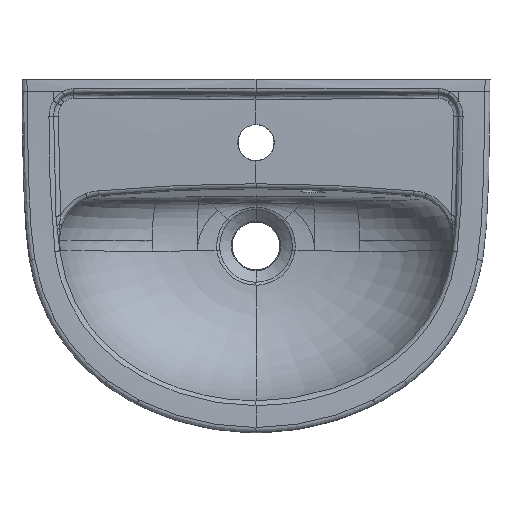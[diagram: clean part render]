
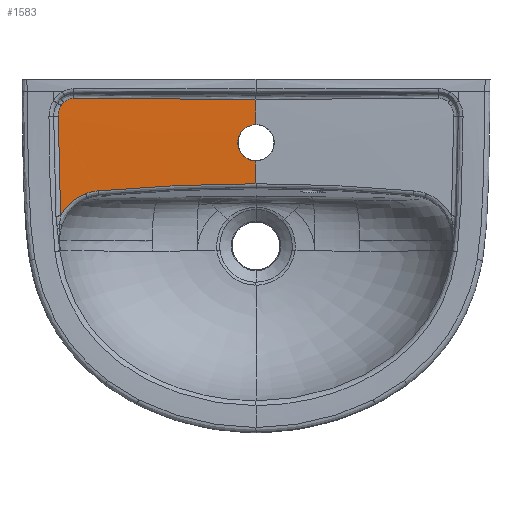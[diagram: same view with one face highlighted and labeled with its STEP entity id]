
A CAD part, top view. The second image highlights one B-rep face of the part: STEP entity #1583.
In plain terms, the highlighted free-form (B-spline) face has degree [3, 3] with [5, 5] control points.
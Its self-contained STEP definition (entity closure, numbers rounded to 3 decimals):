
#495=B_SPLINE_SURFACE_WITH_KNOTS('',3,3,((#96144,#96145,#96146,#96147,#96148),
(#96149,#96150,#96151,#96152,#96153),(#96154,#96155,#96156,#96157,#96158),
(#96159,#96160,#96161,#96162,#96163),(#96164,#96165,#96166,#96167,#96168)),
 .UNSPECIFIED.,.F.,.F.,.F.,(4,1,4),(4,1,4),(0.,0.301,1.),(0.,
0.5,1.),.UNSPECIFIED.);
#1583=ADVANCED_FACE('',(#2299),#495,.F.);
#2299=FACE_OUTER_BOUND('',#3026,.T.);
#3026=EDGE_LOOP('',(#6390,#6391,#6392,#6393,#6394,#6395,#6396,#6397,#6398,
#6399,#6400));
#6390=ORIENTED_EDGE('',*,*,#9441,.F.);
#6391=ORIENTED_EDGE('',*,*,#9405,.F.);
#6392=ORIENTED_EDGE('',*,*,#9152,.T.);
#6393=ORIENTED_EDGE('',*,*,#9158,.T.);
#6394=ORIENTED_EDGE('',*,*,#9164,.T.);
#6395=ORIENTED_EDGE('',*,*,#9170,.T.);
#6396=ORIENTED_EDGE('',*,*,#9176,.T.);
#6397=ORIENTED_EDGE('',*,*,#9204,.T.);
#6398=ORIENTED_EDGE('',*,*,#9208,.T.);
#6399=ORIENTED_EDGE('',*,*,#9211,.T.);
#6400=ORIENTED_EDGE('',*,*,#9404,.F.);
#7629=VERTEX_POINT('',#56315);
#7635=VERTEX_POINT('',#56390);
#7639=VERTEX_POINT('',#56439);
#7643=VERTEX_POINT('',#56511);
#7647=VERTEX_POINT('',#56576);
#7651=VERTEX_POINT('',#56627);
#7669=VERTEX_POINT('',#57040);
#7672=VERTEX_POINT('',#57111);
#7674=VERTEX_POINT('',#57152);
#7780=VERTEX_POINT('',#87642);
#7781=VERTEX_POINT('',#87643);
#9152=EDGE_CURVE('',#7629,#7635,#10611,.T.);
#9158=EDGE_CURVE('',#7635,#7639,#10616,.T.);
#9164=EDGE_CURVE('',#7639,#7643,#10622,.T.);
#9170=EDGE_CURVE('',#7643,#7647,#10627,.T.);
#9176=EDGE_CURVE('',#7647,#7651,#10632,.T.);
#9204=EDGE_CURVE('',#7651,#7669,#10658,.T.);
#9208=EDGE_CURVE('',#7669,#7672,#10662,.T.);
#9211=EDGE_CURVE('',#7672,#7674,#10664,.T.);
#9404=EDGE_CURVE('',#7780,#7674,#10844,.T.);
#9405=EDGE_CURVE('',#7629,#7781,#10845,.T.);
#9441=EDGE_CURVE('',#7781,#7780,#10879,.T.);
#10611=B_SPLINE_CURVE_WITH_KNOTS('',3,(#56391,#56392,#56393,#56394),
 .UNSPECIFIED.,.F.,.F.,(4,4),(0.,1.),.UNSPECIFIED.);
#10616=B_SPLINE_CURVE_WITH_KNOTS('',3,(#56440,#56441,#56442,#56443),
 .UNSPECIFIED.,.F.,.F.,(4,4),(0.,1.),.UNSPECIFIED.);
#10622=B_SPLINE_CURVE_WITH_KNOTS('',3,(#56512,#56513,#56514,#56515),
 .UNSPECIFIED.,.F.,.F.,(4,4),(0.,1.),.UNSPECIFIED.);
#10627=B_SPLINE_CURVE_WITH_KNOTS('',3,(#56577,#56578,#56579,#56580),
 .UNSPECIFIED.,.F.,.F.,(4,4),(0.,1.),.UNSPECIFIED.);
#10632=B_SPLINE_CURVE_WITH_KNOTS('',3,(#56628,#56629,#56630,#56631,#56632,
#56633),.UNSPECIFIED.,.F.,.F.,(4,2,4),(0.,0.5,1.),.UNSPECIFIED.);
#10658=B_SPLINE_CURVE_WITH_KNOTS('',3,(#57030,#57031,#57032,#57033,#57034,
#57035,#57036,#57037,#57038,#57039),.UNSPECIFIED.,.F.,.F.,(4,2,2,2,4),(0.,
0.25,0.5,0.75,1.),.UNSPECIFIED.);
#10662=B_SPLINE_CURVE_WITH_KNOTS('',3,(#57112,#57113,#57114,#57115),
 .UNSPECIFIED.,.F.,.F.,(4,4),(0.,1.),.UNSPECIFIED.);
#10664=B_SPLINE_CURVE_WITH_KNOTS('',3,(#57153,#57154,#57155,#57156),
 .UNSPECIFIED.,.F.,.F.,(4,4),(0.,1.),.UNSPECIFIED.);
#10844=B_SPLINE_CURVE_WITH_KNOTS('',3,(#87644,#87645,#87646,#87647,#87648),
 .UNSPECIFIED.,.F.,.F.,(4,1,4),(0.,0.301,1.),.UNSPECIFIED.);
#10845=B_SPLINE_CURVE_WITH_KNOTS('',3,(#87649,#87650,#87651,#87652,#87653),
 .UNSPECIFIED.,.F.,.F.,(4,1,4),(0.,0.301,1.),.UNSPECIFIED.);
#10879=B_SPLINE_CURVE_WITH_KNOTS('',3,(#96130,#96131,#96132,#96133,#96134,
#96135,#96136,#96137,#96138,#96139,#96140,#96141,#96142,#96143),
 .UNSPECIFIED.,.F.,.F.,(4,2,2,2,2,2,4),(0.,0.25,0.375,0.5,
0.75,0.875,1.),.UNSPECIFIED.);
#56315=CARTESIAN_POINT('',(0.,-19.511,-1.087));
#56390=CARTESIAN_POINT('',(-175.302,-18.285,-1.971));
#56391=CARTESIAN_POINT('',(0.,-19.511,-1.087));
#56392=CARTESIAN_POINT('',(-58.437,-19.511,-1.087));
#56393=CARTESIAN_POINT('',(-116.874,-19.101,-1.379));
#56394=CARTESIAN_POINT('',(-175.302,-18.285,-1.971));
#56439=CARTESIAN_POINT('',(-184.588,-22.093,-2.089));
#56440=CARTESIAN_POINT('',(-175.302,-18.285,-1.971));
#56441=CARTESIAN_POINT('',(-178.764,-18.236,-2.006));
#56442=CARTESIAN_POINT('',(-182.104,-19.689,-2.048));
#56443=CARTESIAN_POINT('',(-184.588,-22.093,-2.089));
#56511=CARTESIAN_POINT('',(-187.171,-25.332,-2.137));
#56512=CARTESIAN_POINT('',(-184.588,-22.093,-2.089));
#56513=CARTESIAN_POINT('',(-185.589,-23.061,-2.105));
#56514=CARTESIAN_POINT('',(-186.445,-24.145,-2.121));
#56515=CARTESIAN_POINT('',(-187.171,-25.332,-2.137));
#56576=CARTESIAN_POINT('',(-190.051,-35.96,-2.252));
#56577=CARTESIAN_POINT('',(-187.171,-25.332,-2.137));
#56578=CARTESIAN_POINT('',(-189.127,-28.528,-2.179));
#56579=CARTESIAN_POINT('',(-190.061,-32.219,-2.217));
#56580=CARTESIAN_POINT('',(-190.051,-35.96,-2.252));
#56627=CARTESIAN_POINT('',(-187.832,-131.34,-4.295));
#56628=CARTESIAN_POINT('',(-190.052,-35.96,-2.252));
#56629=CARTESIAN_POINT('',(-190.008,-51.868,-2.4));
#56630=CARTESIAN_POINT('',(-189.955,-67.775,-2.646));
#56631=CARTESIAN_POINT('',(-189.392,-99.58,-3.327));
#56632=CARTESIAN_POINT('',(-188.942,-115.476,-3.76));
#56633=CARTESIAN_POINT('',(-187.832,-131.34,-4.295));
#57030=CARTESIAN_POINT('',(-187.832,-131.34,-4.295));
#57031=CARTESIAN_POINT('',(-186.569,-128.918,-4.223));
#57032=CARTESIAN_POINT('',(-185.069,-126.578,-4.154));
#57033=CARTESIAN_POINT('',(-181.696,-122.239,-4.027));
#57034=CARTESIAN_POINT('',(-179.833,-120.244,-3.969));
#57035=CARTESIAN_POINT('',(-175.754,-116.604,-3.862));
#57036=CARTESIAN_POINT('',(-173.515,-114.946,-3.813));
#57037=CARTESIAN_POINT('',(-168.802,-112.108,-3.728));
#57038=CARTESIAN_POINT('',(-166.325,-110.92,-3.692));
#57039=CARTESIAN_POINT('',(-163.721,-109.972,-3.663));
#57040=CARTESIAN_POINT('',(-163.721,-109.972,-3.663));
#57111=CARTESIAN_POINT('',(-151.488,-107.288,-3.579));
#57112=CARTESIAN_POINT('',(-163.721,-109.972,-3.663));
#57113=CARTESIAN_POINT('',(-159.784,-108.54,-3.619));
#57114=CARTESIAN_POINT('',(-155.66,-107.664,-3.591));
#57115=CARTESIAN_POINT('',(-151.488,-107.288,-3.579));
#57152=CARTESIAN_POINT('',(0.,-100.479,-3.289));
#57153=CARTESIAN_POINT('',(-151.488,-107.288,-3.579));
#57154=CARTESIAN_POINT('',(-101.125,-102.744,-3.441));
#57155=CARTESIAN_POINT('',(-50.569,-100.479,-3.289));
#57156=CARTESIAN_POINT('',(0.,-100.479,-3.289));
#87642=CARTESIAN_POINT('',(0.,-78.5,-2.397));
#87643=CARTESIAN_POINT('',(0.,-43.5,-1.429));
#87644=CARTESIAN_POINT('',(0.,0.,-1.));
#87645=CARTESIAN_POINT('',(0.,-17.507,-1.));
#87646=CARTESIAN_POINT('',(0.,-75.629,-1.693));
#87647=CARTESIAN_POINT('',(0.,-133.696,-4.68));
#87648=CARTESIAN_POINT('',(0.,-174.185,-7.884));
#87649=CARTESIAN_POINT('',(0.,0.,-1.));
#87650=CARTESIAN_POINT('',(0.,-17.507,-1.));
#87651=CARTESIAN_POINT('',(0.,-75.629,-1.693));
#87652=CARTESIAN_POINT('',(0.,-133.696,-4.68));
#87653=CARTESIAN_POINT('',(0.,-174.185,-7.884));
#96130=CARTESIAN_POINT('',(0.,-43.5,-1.429));
#96131=CARTESIAN_POINT('',(-4.603,-43.5,-1.429));
#96132=CARTESIAN_POINT('',(-9.119,-45.366,-1.466));
#96133=CARTESIAN_POINT('',(-14.016,-50.27,-1.577));
#96134=CARTESIAN_POINT('',(-15.299,-52.2,-1.622));
#96135=CARTESIAN_POINT('',(-17.05,-56.438,-1.728));
#96136=CARTESIAN_POINT('',(-17.502,-58.731,-1.788));
#96137=CARTESIAN_POINT('',(-17.496,-65.578,-1.976));
#96138=CARTESIAN_POINT('',(-15.603,-70.146,-2.117));
#96139=CARTESIAN_POINT('',(-10.761,-74.988,-2.276));
#96140=CARTESIAN_POINT('',(-8.82,-76.288,-2.321));
#96141=CARTESIAN_POINT('',(-4.581,-78.045,-2.381));
#96142=CARTESIAN_POINT('',(-2.312,-78.5,-2.397));
#96143=CARTESIAN_POINT('',(0.,-78.5,-2.397));
#96144=CARTESIAN_POINT('',(0.,0.,-1.));
#96145=CARTESIAN_POINT('',(-33.334,0.,-1.));
#96146=CARTESIAN_POINT('',(-100.002,0.,-1.2));
#96147=CARTESIAN_POINT('',(-166.668,0.,-1.8));
#96148=CARTESIAN_POINT('',(-200.,0.,-2.2));
#96149=CARTESIAN_POINT('',(0.,-17.507,-1.));
#96150=CARTESIAN_POINT('',(-33.334,-17.507,-1.));
#96151=CARTESIAN_POINT('',(-100.002,-17.506,-1.2));
#96152=CARTESIAN_POINT('',(-166.668,-17.506,-1.8));
#96153=CARTESIAN_POINT('',(-200.,-17.506,-2.2));
#96154=CARTESIAN_POINT('',(0.,-75.629,-1.693));
#96155=CARTESIAN_POINT('',(-33.241,-75.631,-1.693));
#96156=CARTESIAN_POINT('',(-99.725,-75.633,-1.837));
#96157=CARTESIAN_POINT('',(-166.207,-75.629,-2.271));
#96158=CARTESIAN_POINT('',(-199.446,-75.626,-2.56));
#96159=CARTESIAN_POINT('',(0.,-133.696,-4.68));
#96160=CARTESIAN_POINT('',(-32.842,-133.697,-4.68));
#96161=CARTESIAN_POINT('',(-98.526,-133.698,-4.586));
#96162=CARTESIAN_POINT('',(-164.212,-133.697,-4.303));
#96163=CARTESIAN_POINT('',(-197.056,-133.696,-4.114));
#96164=CARTESIAN_POINT('',(0.,-174.185,-7.884));
#96165=CARTESIAN_POINT('',(-32.415,-174.169,-7.883));
#96166=CARTESIAN_POINT('',(-97.243,-174.154,-7.531));
#96167=CARTESIAN_POINT('',(-162.075,-174.176,-6.48));
#96168=CARTESIAN_POINT('',(-194.494,-174.195,-5.779));
